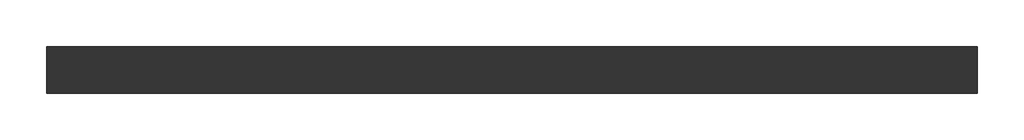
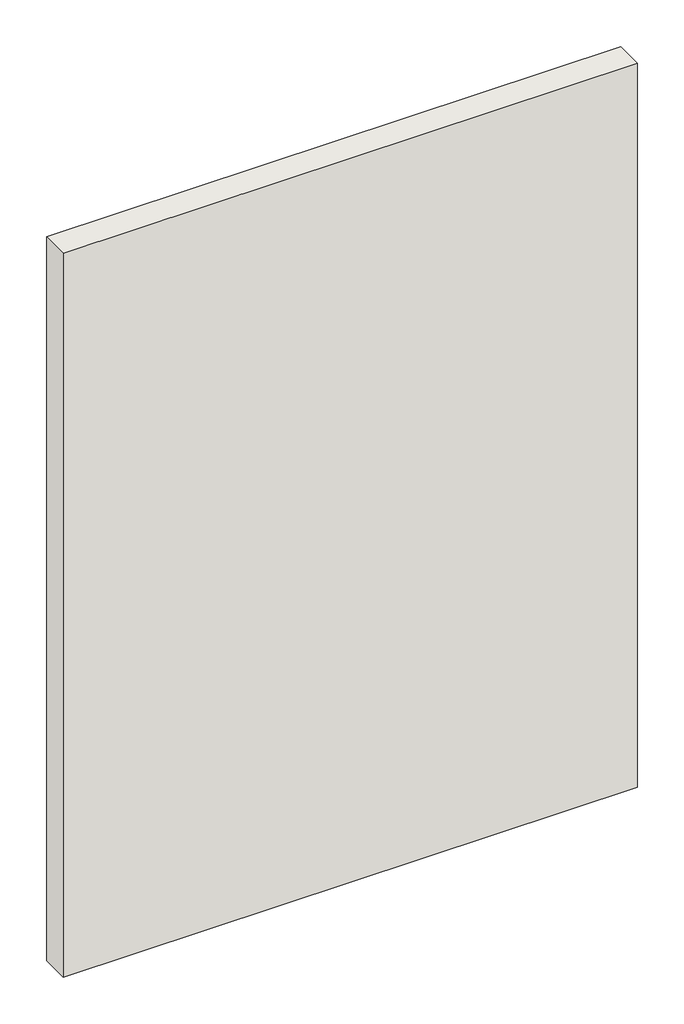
# One storey: 1 wall.
"""IFC4 building model written with IfcOpenShell, lengths in millimetres."""

from ifc_helpers import new_model, si_unit, origin, origin_with_axes, place, context, project, spatial, polyline, outline, extrude, element, save

model = new_model("IFC4")

# Units and contexts
model_context = context("Model", 3, world=origin())
ifc_project = project(units=[si_unit("LENGTHUNIT", "METRE", prefix="MILLI")], contexts=[model_context])

# Site, building, storey
site = spatial("IfcSite", under=ifc_project)
building = spatial("IfcBuilding", under=site)
storey = spatial("IfcBuildingStorey", under=building, Name="Уровень 1", Elevation=0.0)

# Wall
placement = place(None, origin())
element("IfcWall", 1, ObjectType="Перегородка КНАУФ W145 Применение внутри здания MW100/50 ПН100х40 с двуслойной КНАУФ-Сапфир+ГВЛ", at=placement, inside=storey, context=model_context, shape_type="SweptSolid", body=[
    extrude(outline(polyline([(1865.355621, 648.6781946), (-1134.644379, 648.6781946), (-1134.644379, 798.6781946), (1865.355621, 798.6781946), (1865.355621, 648.6781946)])), origin_with_axes(), (0.0, 0.0, 1.0), 4000.0),
])

save(model, "model.ifc")
